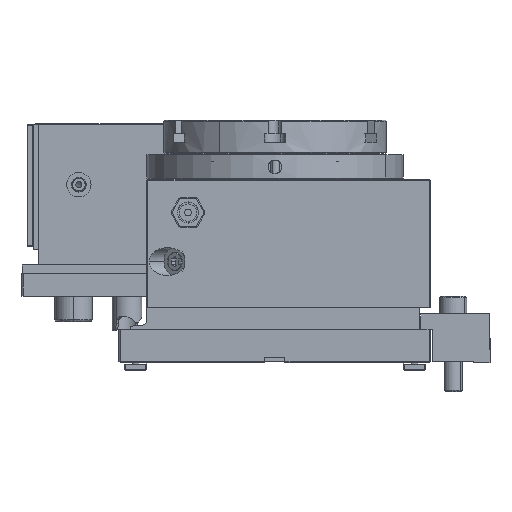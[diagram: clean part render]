
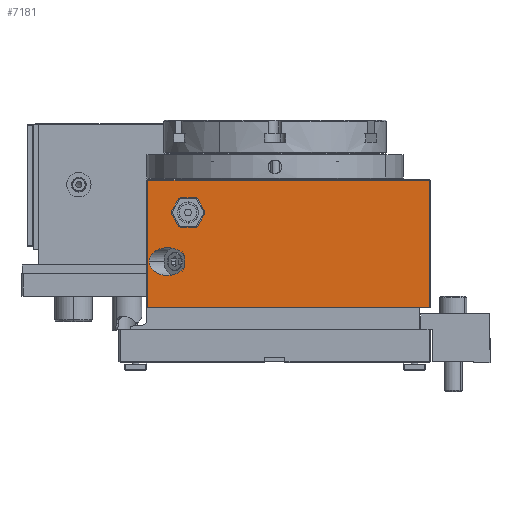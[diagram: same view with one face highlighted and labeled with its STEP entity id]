
A CAD part, left-side view. The second image highlights one B-rep face of the part: STEP entity #7181.
In plain terms, the highlighted planar face has unit normal (-1, 0, 0).
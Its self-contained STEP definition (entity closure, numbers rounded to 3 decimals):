
#45 = AXIS2_PLACEMENT_3D ( 'NONE', #8183, #63, #9822 ) ;
#63 = DIRECTION ( 'NONE',  ( -1., 0., 0. ) ) ;
#164 = LINE ( 'NONE', #17075, #23398 ) ;
#318 = VERTEX_POINT ( 'NONE', #8463 ) ;
#566 = EDGE_CURVE ( 'NONE', #21804, #8203, #6607, .T. ) ;
#770 = CARTESIAN_POINT ( 'NONE',  ( -115., -140., -72.649 ) ) ;
#801 = CARTESIAN_POINT ( 'NONE',  ( -115., 112.814, -31.649 ) ) ;
#922 = VERTEX_POINT ( 'NONE', #18705 ) ;
#1919 = CARTESIAN_POINT ( 'NONE',  ( -115., 87.457, -53.838 ) ) ;
#2048 = CARTESIAN_POINT ( 'NONE',  ( -115., 112.814, -51.246 ) ) ;
#2248 = ORIENTED_EDGE ( 'NONE', *, *, #18510, .F. ) ;
#2426 = CARTESIAN_POINT ( 'NONE',  ( -115., 80.75, -28.372 ) ) ;
#2612 = DIRECTION ( 'NONE',  ( -1., 0., 0. ) ) ;
#2944 = CIRCLE ( 'NONE', #8941, 9.5 ) ;
#3727 = VERTEX_POINT ( 'NONE', #15962 ) ;
#4018 = EDGE_CURVE ( 'NONE', #12313, #21277, #4782, .T. ) ;
#4131 = ORIENTED_EDGE ( 'NONE', *, *, #20975, .T. ) ;
#4502 = CARTESIAN_POINT ( 'NONE',  ( -115., 140., -122.649 ) ) ;
#4560 = LINE ( 'NONE', #23851, #6055 ) ;
#4782 = LINE ( 'NONE', #770, #22495 ) ;
#4884 = EDGE_CURVE ( 'NONE', #7503, #21277, #4560, .T. ) ;
#4967 = CARTESIAN_POINT ( 'NONE',  ( -115., 140., 41.351 ) ) ;
#5300 = CARTESIAN_POINT ( 'NONE',  ( -115., 114., 41.351 ) ) ;
#5869 = CARTESIAN_POINT ( 'NONE',  ( -115., 114., -72.649 ) ) ;
#6055 = VECTOR ( 'NONE', #8441, 1000. ) ;
#6376 = FACE_BOUND ( 'NONE', #23838, .T. ) ;
#6607 =( BOUNDED_CURVE ( )  B_SPLINE_CURVE ( 3, ( #22859, #1919, #2048, #17215 ),
 .UNSPECIFIED., .F., .T. ) 
 B_SPLINE_CURVE_WITH_KNOTS ( ( 4, 4 ),
 ( 0.265, 3.142 ),
 .UNSPECIFIED. ) 
 CURVE ( )  GEOMETRIC_REPRESENTATION_ITEM ( )  RATIONAL_B_SPLINE_CURVE ( ( 1., 0.422, 0.422, 1. ) ) 
 REPRESENTATION_ITEM ( '' )  );
#6958 = CARTESIAN_POINT ( 'NONE',  ( -115., 80.75, -34.926 ) ) ;
#7181 = ADVANCED_FACE ( 'NONE', ( #23536, #6376, #14146 ), #21798, .T. ) ;
#7503 = VERTEX_POINT ( 'NONE', #5300 ) ;
#7910 = DIRECTION ( 'NONE',  ( 0., 0., 1. ) ) ;
#8183 = CARTESIAN_POINT ( 'NONE',  ( -115., 78., 12.351 ) ) ;
#8203 = VERTEX_POINT ( 'NONE', #18937 ) ;
#8300 = CARTESIAN_POINT ( 'NONE',  ( -115., 87.457, -9.46 ) ) ;
#8441 = DIRECTION ( 'NONE',  ( 0., 0., -1. ) ) ;
#8463 = CARTESIAN_POINT ( 'NONE',  ( -115., 78., 2.851 ) ) ;
#8860 = ORIENTED_EDGE ( 'NONE', *, *, #14350, .T. ) ;
#8941 = AXIS2_PLACEMENT_3D ( 'NONE', #15064, #14945, #13054 ) ;
#9008 =( BOUNDED_CURVE ( )  B_SPLINE_CURVE ( 3, ( #801, #16094, #8300, #2426 ),
 .UNSPECIFIED., .F., .T. ) 
 B_SPLINE_CURVE_WITH_KNOTS ( ( 4, 4 ),
 ( 3.142, 6.018 ),
 .UNSPECIFIED. ) 
 CURVE ( )  GEOMETRIC_REPRESENTATION_ITEM ( )  RATIONAL_B_SPLINE_CURVE ( ( 1., 0.422, 0.422, 1. ) ) 
 REPRESENTATION_ITEM ( '' )  );
#9233 = AXIS2_PLACEMENT_3D ( 'NONE', #4502, #2612, #10250 ) ;
#9822 = DIRECTION ( 'NONE',  ( 0., 0., 1. ) ) ;
#9990 = LINE ( 'NONE', #15509, #19186 ) ;
#10250 = DIRECTION ( 'NONE',  ( 0., -1., 0. ) ) ;
#11330 = ORIENTED_EDGE ( 'NONE', *, *, #4018, .F. ) ;
#11431 = EDGE_CURVE ( 'NONE', #3727, #7503, #22131, .T. ) ;
#11998 = DIRECTION ( 'NONE',  ( 0., 0., -1. ) ) ;
#12313 = VERTEX_POINT ( 'NONE', #17379 ) ;
#13054 = DIRECTION ( 'NONE',  ( 0., 0., 1. ) ) ;
#14067 = ORIENTED_EDGE ( 'NONE', *, *, #23538, .T. ) ;
#14146 = FACE_OUTER_BOUND ( 'NONE', #23763, .T. ) ;
#14350 = EDGE_CURVE ( 'NONE', #12313, #3727, #164, .T. ) ;
#14417 = CARTESIAN_POINT ( 'NONE',  ( -115., 78., 21.851 ) ) ;
#14945 = DIRECTION ( 'NONE',  ( -1., 0., 0. ) ) ;
#15064 = CARTESIAN_POINT ( 'NONE',  ( -115., 78., 12.351 ) ) ;
#15509 = CARTESIAN_POINT ( 'NONE',  ( -115., 80.75, -122.649 ) ) ;
#15868 = ORIENTED_EDGE ( 'NONE', *, *, #4884, .T. ) ;
#15962 = CARTESIAN_POINT ( 'NONE',  ( -115., -139., 41.351 ) ) ;
#16094 = CARTESIAN_POINT ( 'NONE',  ( -115., 112.814, -12.052 ) ) ;
#17059 = ORIENTED_EDGE ( 'NONE', *, *, #566, .T. ) ;
#17075 = CARTESIAN_POINT ( 'NONE',  ( -115., -139., -122.649 ) ) ;
#17215 = CARTESIAN_POINT ( 'NONE',  ( -115., 112.814, -31.649 ) ) ;
#17379 = CARTESIAN_POINT ( 'NONE',  ( -115., -139., -72.649 ) ) ;
#18510 = EDGE_CURVE ( 'NONE', #23319, #318, #24074, .T. ) ;
#18705 = CARTESIAN_POINT ( 'NONE',  ( -115., 80.75, -28.372 ) ) ;
#18842 = ORIENTED_EDGE ( 'NONE', *, *, #19519, .F. ) ;
#18937 = CARTESIAN_POINT ( 'NONE',  ( -115., 112.814, -31.649 ) ) ;
#19186 = VECTOR ( 'NONE', #11998, 1000. ) ;
#19519 = EDGE_CURVE ( 'NONE', #318, #23319, #2944, .T. ) ;
#20251 = DIRECTION ( 'NONE',  ( 0., 1., 0. ) ) ;
#20975 = EDGE_CURVE ( 'NONE', #8203, #922, #9008, .T. ) ;
#21277 = VERTEX_POINT ( 'NONE', #5869 ) ;
#21798 = PLANE ( 'NONE',  #9233 ) ;
#21804 = VERTEX_POINT ( 'NONE', #6958 ) ;
#22131 = LINE ( 'NONE', #4967, #23114 ) ;
#22495 = VECTOR ( 'NONE', #23951, 1000. ) ;
#22837 = ORIENTED_EDGE ( 'NONE', *, *, #11431, .T. ) ;
#22859 = CARTESIAN_POINT ( 'NONE',  ( -115., 80.75, -34.926 ) ) ;
#23114 = VECTOR ( 'NONE', #20251, 1000. ) ;
#23319 = VERTEX_POINT ( 'NONE', #14417 ) ;
#23398 = VECTOR ( 'NONE', #7910, 1000. ) ;
#23536 = FACE_BOUND ( 'NONE', #24633, .T. ) ;
#23538 = EDGE_CURVE ( 'NONE', #922, #21804, #9990, .T. ) ;
#23763 = EDGE_LOOP ( 'NONE', ( #11330, #8860, #22837, #15868 ) ) ;
#23838 = EDGE_LOOP ( 'NONE', ( #14067, #17059, #4131 ) ) ;
#23851 = CARTESIAN_POINT ( 'NONE',  ( -115., 114., -122.649 ) ) ;
#23951 = DIRECTION ( 'NONE',  ( 0., 1., 0. ) ) ;
#24074 = CIRCLE ( 'NONE', #45, 9.5 ) ;
#24633 = EDGE_LOOP ( 'NONE', ( #2248, #18842 ) ) ;
